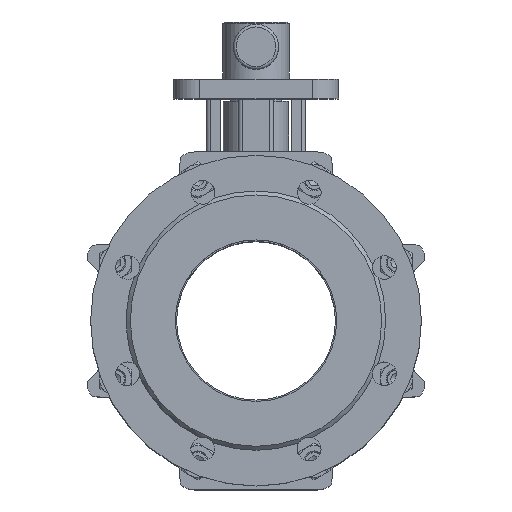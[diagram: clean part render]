
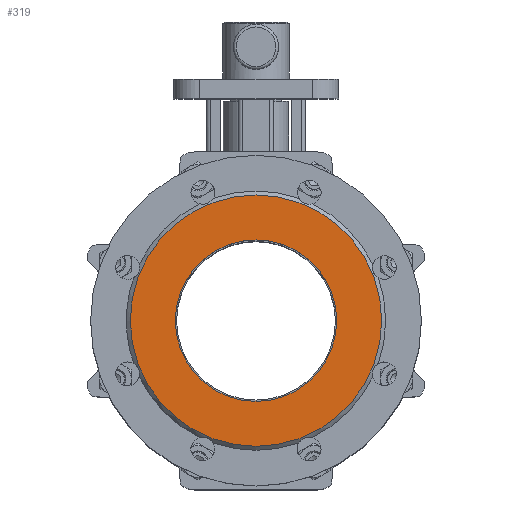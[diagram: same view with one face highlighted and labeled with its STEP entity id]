
A CAD part, top view. The second image highlights one B-rep face of the part: STEP entity #319.
In plain terms, the highlighted planar face has unit normal (0, 0, 1).
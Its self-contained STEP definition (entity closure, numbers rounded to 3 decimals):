
#319=ADVANCED_FACE('',(#2701,#2703),#2705,.F.);
#2701=FACE_BOUND('',#2702,.T.);
#2702=EDGE_LOOP('',(#8638));
#2703=FACE_BOUND('',#2704,.T.);
#2704=EDGE_LOOP('',(#8639));
#2705=PLANE('',#2706);
#2706=AXIS2_PLACEMENT_3D('',#2707,#2708,#2709);
#2707=CARTESIAN_POINT('',(0.,127.724,174.969));
#2708=DIRECTION('',(0.,0.,-1.));
#2709=DIRECTION('',(-1.,0.,0.));
#8638=ORIENTED_EDGE('',*,*,#11437,.T.);
#8639=ORIENTED_EDGE('',*,*,#11240,.F.);
#11240=EDGE_CURVE('',#12681,#12681,#12682,.F.);
#11437=EDGE_CURVE('',#13059,#13059,#13060,.F.);
#12681=VERTEX_POINT('',#15072);
#12682=CIRCLE('',#15073,61.);
#13059=VERTEX_POINT('',#16432);
#13060=CIRCLE('',#16433,95.);
#15072=CARTESIAN_POINT('',(-61.,0.,174.969));
#15073=AXIS2_PLACEMENT_3D('',#15074,#15075,#15076);
#15074=CARTESIAN_POINT('',(0.,0.,174.969));
#15075=DIRECTION('',(0.,0.,-1.));
#15076=DIRECTION('',(-1.,0.,0.));
#16432=CARTESIAN_POINT('',(-95.,0.,174.969));
#16433=AXIS2_PLACEMENT_3D('',#16434,#16435,#16436);
#16434=CARTESIAN_POINT('',(0.,0.,174.969));
#16435=DIRECTION('',(0.,0.,-1.));
#16436=DIRECTION('',(-1.,0.,0.));
